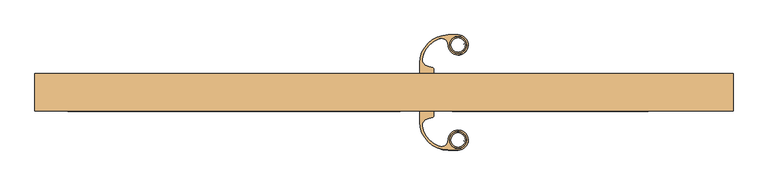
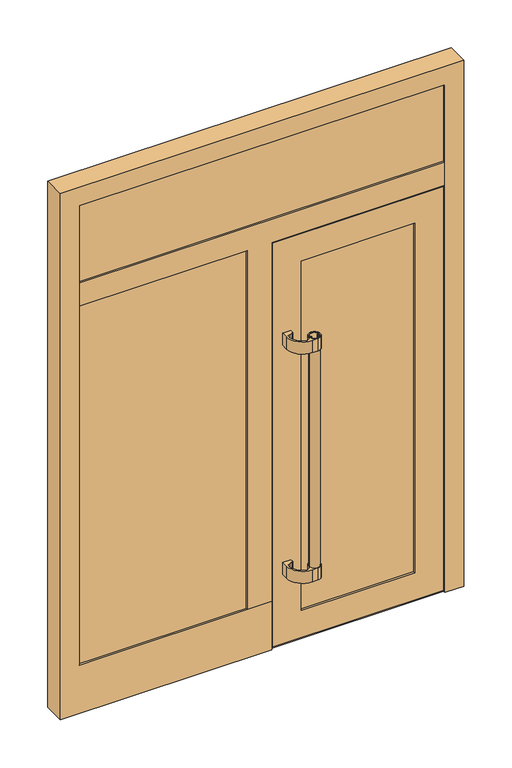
"""IFC4 building model written with IfcOpenShell, lengths in millimetres: door geometry, jednokrilna vrata s fixnim poljem i nadsvijetlom : jednokrilna vrata s fixnim poljem i nadsvijetlom."""

from ifc_helpers import new_model, si_unit, point, frame, frame_2d, origin, place, context, project, spatial, polyline, circle_curve, trimmed, segment, composite_curve, outline, extrude, faceted_brep, source, transform, mapped, element, save
from ifc_brep_helpers import plane_surface, cylinder_surface, advanced_brep


def door_963cac1d(model_context):
    return source(origin(), model_context, "Body", "SolidModel", [
        extrude(outline(composite_curve([segment(trimmed(circle_curve(frame_2d((167.5865345, 90.4490127)), 19.0), [point((148.5865345, 90.4490127))], [point((186.5865345, 90.4490127))], False, "CARTESIAN"), True, "CONTINUOUS"), segment(trimmed(circle_curve(frame_2d((167.5865345, 90.4490127)), 19.0), [point((186.5865345, 90.4490127))], [point((148.5865345, 90.4490127))], False, "CARTESIAN"), True, "CONTINUOUS")], self_intersect=False), holes=[composite_curve([segment(trimmed(circle_curve(frame_2d((153.1265345, 90.4490127)), 1.55), [point((154.22255, 91.5450282))], [point((154.22255, 89.3529971))], True, "CARTESIAN"), True, "CONTINUOUS"), segment(polyline([(154.22255, 89.3529971), (155.3691513, 89.3529971), (155.3691513, 88.3818479)]), True, "CONTINUOUS"), segment(trimmed(circle_curve(frame_2d((153.1265345, 90.4490127)), 3.05), [point((155.3691513, 88.3818479))], [point((153.1265345, 87.3990127))], False, "CARTESIAN"), True, "CONTINUOUS"), segment(polyline([(153.1265345, 87.3990127), (151.8799276, 87.3990127)]), True, "CONTINUOUS"), segment(trimmed(circle_curve(frame_2d((167.5865345, 90.4490127)), 16.0), [point((151.8799276, 87.3990127))], [point((183.2931414, 87.3990127))], True, "CARTESIAN"), True, "CONTINUOUS"), segment(polyline([(183.2931414, 87.3990127), (182.0865345, 87.3990127)]), True, "CONTINUOUS"), segment(trimmed(circle_curve(frame_2d((182.0865345, 90.4490127)), 3.05), [point((182.0865345, 87.3990127))], [point((179.8439178, 88.3818479))], False, "CARTESIAN"), True, "CONTINUOUS"), segment(polyline([(179.8439178, 88.3818479), (179.8439178, 89.3529971), (180.990519, 89.3529971)]), True, "CONTINUOUS"), segment(trimmed(circle_curve(frame_2d((182.0865345, 90.4490127)), 1.55), [point((180.990519, 89.3529971))], [point((180.990519, 91.5450282))], True, "CARTESIAN"), True, "CONTINUOUS"), segment(polyline([(180.990519, 91.5450282), (179.8439178, 91.5450282), (179.8439178, 92.5161774)]), True, "CONTINUOUS"), segment(trimmed(circle_curve(frame_2d((182.0865345, 90.4490127)), 3.05), [point((179.8439178, 92.5161774))], [point((182.0865345, 93.4990127))], False, "CARTESIAN"), True, "CONTINUOUS"), segment(polyline([(182.0865345, 93.4990127), (183.2931414, 93.4990127)]), True, "CONTINUOUS"), segment(trimmed(circle_curve(frame_2d((167.5865345, 90.4490127)), 16.0), [point((183.2931414, 93.4990127))], [point((151.8799276, 93.4990127))], True, "CARTESIAN"), True, "CONTINUOUS"), segment(polyline([(151.8799276, 93.4990127), (153.1265345, 93.4990127)]), True, "CONTINUOUS"), segment(trimmed(circle_curve(frame_2d((153.1265345, 90.4490127)), 3.05), [point((153.1265345, 93.4990127))], [point((155.3691513, 92.5161774))], False, "CARTESIAN"), True, "CONTINUOUS"), segment(polyline([(155.3691513, 92.5161774), (155.3691513, 91.5450282), (154.22255, 91.5450282)]), True, "CONTINUOUS")], self_intersect=False)]), frame((0.0, 0.0, 306.9880453), z_axis=(0.0, 0.0, 1.0), x_axis=(1.0, 0.0, 0.0)), (0.0, 0.0, 1.0), 1000.0),
        extrude(outline(composite_curve([segment(polyline([(86.0396574, 25.0012504), (81.0396574, 25.0012504), (81.0396574, 49.1990127)]), True, "CONTINUOUS"), segment(trimmed(circle_curve(frame_2d((145.0368984, 49.1990127)), 63.997241), [point((81.0396574, 49.1990127))], [point((145.0368984, 113.1962536))], False, "CARTESIAN"), True, "CONTINUOUS"), segment(polyline([(145.0368984, 113.1962536), (167.9408353, 113.1962536)]), True, "CONTINUOUS"), segment(trimmed(circle_curve(frame_2d((167.5223901, 90.256705)), 22.9433648), [point((167.9408353, 113.1962536))], [point((180.958649, 108.8541493))], False, "CARTESIAN"), True, "CONTINUOUS"), segment(trimmed(circle_curve(frame_2d((167.6642718, 90.4530867)), 22.7010919), [point((180.958649, 108.8541493))], [point((182.8092558, 73.5424679))], False, "CARTESIAN"), True, "CONTINUOUS"), segment(trimmed(circle_curve(frame_2d((167.581476, 90.5455349)), 22.8251959), [point((182.8092558, 73.5424679))], [point((154.21442, 72.043876))], False, "CARTESIAN"), True, "CONTINUOUS"), segment(trimmed(circle_curve(frame_2d((167.4681672, 90.3887015)), 22.631713), [point((154.21442, 72.043876))], [point((144.8365345, 90.4490127))], False, "CARTESIAN"), True, "CONTINUOUS"), segment(trimmed(circle_curve(frame_2d((129.8365429, 90.4889862)), 15.0000449), [point((144.8365345, 90.4490127))], [point((124.6686807, 104.5706959))], True, "CARTESIAN"), True, "CONTINUOUS"), segment(trimmed(circle_curve(frame_2d((144.9673201, 49.2597109)), 58.9180773), [point((124.6686807, 104.5706959))], [point((86.9718115, 59.6453165))], True, "CARTESIAN"), True, "CONTINUOUS"), segment(trimmed(circle_curve(frame_2d((101.6866787, 56.7149289)), 15.0038159), [point((86.9718115, 59.6453165))], [point((97.8034054, 42.2223556))], True, "CARTESIAN"), True, "CONTINUOUS"), segment(polyline([(97.8034054, 42.2223556), (109.3337526, 39.1328084)]), True, "CONTINUOUS"), segment(trimmed(circle_curve(frame_2d((108.0396574, 34.3031793)), 5.0), [point((109.3337526, 39.1328084))], [point((113.0396574, 34.3031793))], False, "CARTESIAN"), True, "CONTINUOUS"), segment(polyline([(113.0396574, 34.3031793), (113.0396574, 25.0012504), (86.0396574, 25.0012504)]), True, "CONTINUOUS")], self_intersect=False), holes=[composite_curve([segment(trimmed(circle_curve(frame_2d((167.5865345, 90.4490127)), 19.25), [point((148.3365345, 90.4490127))], [point((186.8365345, 90.4490127))], True, "CARTESIAN"), True, "CONTINUOUS"), segment(trimmed(circle_curve(frame_2d((167.5865345, 90.4490127)), 19.25), [point((186.8365345, 90.4490127))], [point((148.3365345, 90.4490127))], True, "CARTESIAN"), True, "CONTINUOUS")], self_intersect=False)]), frame((0.0, 0.0, 1256.9880453), z_axis=(0.0, 0.0, 1.0), x_axis=(1.0, 0.0, 0.0)), (0.0, 0.0, 1.0), 50.0),
        extrude(outline(composite_curve([segment(polyline([(86.0396574, 25.0012504), (81.0396574, 25.0012504), (81.0396574, 49.1990127)]), True, "CONTINUOUS"), segment(trimmed(circle_curve(frame_2d((145.0368984, 49.1990127)), 63.997241), [point((81.0396574, 49.1990127))], [point((145.0368984, 113.1962536))], False, "CARTESIAN"), True, "CONTINUOUS"), segment(polyline([(145.0368984, 113.1962536), (167.9408353, 113.1962536)]), True, "CONTINUOUS"), segment(trimmed(circle_curve(frame_2d((167.5223901, 90.256705)), 22.9433648), [point((167.9408353, 113.1962536))], [point((180.958649, 108.8541493))], False, "CARTESIAN"), True, "CONTINUOUS"), segment(trimmed(circle_curve(frame_2d((167.6642718, 90.4530867)), 22.7010919), [point((180.958649, 108.8541493))], [point((182.8092558, 73.5424679))], False, "CARTESIAN"), True, "CONTINUOUS"), segment(trimmed(circle_curve(frame_2d((167.581476, 90.5455349)), 22.8251959), [point((182.8092558, 73.5424679))], [point((154.21442, 72.043876))], False, "CARTESIAN"), True, "CONTINUOUS"), segment(trimmed(circle_curve(frame_2d((167.4681672, 90.3887015)), 22.631713), [point((154.21442, 72.043876))], [point((144.8365345, 90.4490127))], False, "CARTESIAN"), True, "CONTINUOUS"), segment(trimmed(circle_curve(frame_2d((129.8365429, 90.4889862)), 15.0000449), [point((144.8365345, 90.4490127))], [point((124.6686807, 104.5706959))], True, "CARTESIAN"), True, "CONTINUOUS"), segment(trimmed(circle_curve(frame_2d((144.9673201, 49.2597109)), 58.9180773), [point((124.6686807, 104.5706959))], [point((86.9718115, 59.6453165))], True, "CARTESIAN"), True, "CONTINUOUS"), segment(trimmed(circle_curve(frame_2d((101.6866787, 56.7149289)), 15.0038159), [point((86.9718115, 59.6453165))], [point((97.8034054, 42.2223556))], True, "CARTESIAN"), True, "CONTINUOUS"), segment(polyline([(97.8034054, 42.2223556), (109.3337526, 39.1328084)]), True, "CONTINUOUS"), segment(trimmed(circle_curve(frame_2d((108.0396574, 34.3031793)), 5.0), [point((109.3337526, 39.1328084))], [point((113.0396574, 34.3031793))], False, "CARTESIAN"), True, "CONTINUOUS"), segment(polyline([(113.0396574, 34.3031793), (113.0396574, 25.0012504), (86.0396574, 25.0012504)]), True, "CONTINUOUS")], self_intersect=False), holes=[composite_curve([segment(trimmed(circle_curve(frame_2d((167.5865345, 90.4490127)), 19.25), [point((148.3365345, 90.4490127))], [point((186.8365345, 90.4490127))], True, "CARTESIAN"), True, "CONTINUOUS"), segment(trimmed(circle_curve(frame_2d((167.5865345, 90.4490127)), 19.25), [point((186.8365345, 90.4490127))], [point((148.3365345, 90.4490127))], True, "CARTESIAN"), True, "CONTINUOUS")], self_intersect=False)]), frame((0.0, 0.0, 306.9880453), z_axis=(0.0, 0.0, 1.0), x_axis=(1.0, 0.0, 0.0)), (0.0, 0.0, 1.0), 50.0),
        extrude(outline(composite_curve([segment(trimmed(circle_curve(frame_2d((167.5865345, -125.4490749)), 19.0), [point((148.5865345, -125.4490749))], [point((186.5865345, -125.4490749))], False, "CARTESIAN"), True, "CONTINUOUS"), segment(trimmed(circle_curve(frame_2d((167.5865345, -125.4490749)), 19.0), [point((186.5865345, -125.4490749))], [point((148.5865345, -125.4490749))], False, "CARTESIAN"), True, "CONTINUOUS")], self_intersect=False), holes=[composite_curve([segment(polyline([(154.22255, -126.5450904), (155.3691513, -126.5450904), (155.3691513, -127.5162397)]), True, "CONTINUOUS"), segment(trimmed(circle_curve(frame_2d((153.1265345, -125.4490749)), 3.05), [point((155.3691513, -127.5162397))], [point((153.1265345, -128.4990749))], False, "CARTESIAN"), True, "CONTINUOUS"), segment(polyline([(153.1265345, -128.4990749), (151.8799276, -128.4990749)]), True, "CONTINUOUS"), segment(trimmed(circle_curve(frame_2d((167.5865345, -125.4490749)), 16.0), [point((151.8799276, -128.4990749))], [point((183.2931414, -128.4990749))], True, "CARTESIAN"), True, "CONTINUOUS"), segment(polyline([(183.2931414, -128.4990749), (182.0865345, -128.4990749)]), True, "CONTINUOUS"), segment(trimmed(circle_curve(frame_2d((182.0865345, -125.4490749)), 3.05), [point((182.0865345, -128.4990749))], [point((179.8439178, -127.5162397))], False, "CARTESIAN"), True, "CONTINUOUS"), segment(polyline([(179.8439178, -127.5162397), (179.8439178, -126.5450904), (180.990519, -126.5450904)]), True, "CONTINUOUS"), segment(trimmed(circle_curve(frame_2d((182.0865345, -125.4490749)), 1.55), [point((180.990519, -126.5450904))], [point((180.990519, -124.3530594))], True, "CARTESIAN"), True, "CONTINUOUS"), segment(polyline([(180.990519, -124.3530594), (179.8439178, -124.3530594), (179.8439178, -123.3819102)]), True, "CONTINUOUS"), segment(trimmed(circle_curve(frame_2d((182.0865345, -125.4490749)), 3.05), [point((179.8439178, -123.3819102))], [point((182.0865345, -122.3990749))], False, "CARTESIAN"), True, "CONTINUOUS"), segment(polyline([(182.0865345, -122.3990749), (183.2931414, -122.3990749)]), True, "CONTINUOUS"), segment(trimmed(circle_curve(frame_2d((167.5865345, -125.4490749)), 16.0), [point((183.2931414, -122.3990749))], [point((151.8799276, -122.3990749))], True, "CARTESIAN"), True, "CONTINUOUS"), segment(polyline([(151.8799276, -122.3990749), (153.1265345, -122.3990749)]), True, "CONTINUOUS"), segment(trimmed(circle_curve(frame_2d((153.1265345, -125.4490749)), 3.05), [point((153.1265345, -122.3990749))], [point((155.3691513, -123.3819102))], False, "CARTESIAN"), True, "CONTINUOUS"), segment(polyline([(155.3691513, -123.3819102), (155.3691513, -124.3530594), (154.22255, -124.3530594)]), True, "CONTINUOUS"), segment(trimmed(circle_curve(frame_2d((153.1265345, -125.4490749)), 1.55), [point((154.22255, -124.3530594))], [point((154.22255, -126.5450904))], True, "CARTESIAN"), True, "CONTINUOUS")], self_intersect=False)]), frame((0.0, 0.0, 306.9880453), z_axis=(0.0, 0.0, 1.0), x_axis=(1.0, 0.0, 0.0)), (0.0, 0.0, 1.0), 1000.0),
        extrude(outline(composite_curve([segment(polyline([(86.0396574, -60.0013127), (113.0396574, -60.0013127), (113.0396574, -69.3032415)]), True, "CONTINUOUS"), segment(trimmed(circle_curve(frame_2d((108.0396574, -69.3032415)), 5.0), [point((113.0396574, -69.3032415))], [point((109.3337526, -74.1328707))], False, "CARTESIAN"), True, "CONTINUOUS"), segment(polyline([(109.3337526, -74.1328707), (97.8034054, -77.2224179)]), True, "CONTINUOUS"), segment(trimmed(circle_curve(frame_2d((101.6866787, -91.7149911)), 15.0038159), [point((97.8034054, -77.2224179))], [point((86.9718115, -94.6453788))], True, "CARTESIAN"), True, "CONTINUOUS"), segment(trimmed(circle_curve(frame_2d((144.9673201, -84.2597731)), 58.9180773), [point((86.9718115, -94.6453788))], [point((124.6686807, -139.5707582))], True, "CARTESIAN"), True, "CONTINUOUS"), segment(trimmed(circle_curve(frame_2d((129.8365429, -125.4890485)), 15.0000449), [point((124.6686807, -139.5707582))], [point((144.8365345, -125.4490749))], True, "CARTESIAN"), True, "CONTINUOUS"), segment(trimmed(circle_curve(frame_2d((167.4681672, -125.3887637)), 22.631713), [point((144.8365345, -125.4490749))], [point((154.21442, -107.0439383))], False, "CARTESIAN"), True, "CONTINUOUS"), segment(trimmed(circle_curve(frame_2d((167.581476, -125.5455972)), 22.8251959), [point((154.21442, -107.0439383))], [point((182.8092558, -108.5425301))], False, "CARTESIAN"), True, "CONTINUOUS"), segment(trimmed(circle_curve(frame_2d((167.6642718, -125.4531489)), 22.7010919), [point((182.8092558, -108.5425301))], [point((180.958649, -143.8542115))], False, "CARTESIAN"), True, "CONTINUOUS"), segment(trimmed(circle_curve(frame_2d((167.5223901, -125.2567672)), 22.9433648), [point((180.958649, -143.8542115))], [point((167.9408353, -148.1963159))], False, "CARTESIAN"), True, "CONTINUOUS"), segment(polyline([(167.9408353, -148.1963159), (145.0368984, -148.1963159)]), True, "CONTINUOUS"), segment(trimmed(circle_curve(frame_2d((145.0368984, -84.1990749)), 63.997241), [point((145.0368984, -148.1963159))], [point((81.0396574, -84.1990749))], False, "CARTESIAN"), True, "CONTINUOUS"), segment(polyline([(81.0396574, -84.1990749), (81.0396574, -60.0013127), (86.0396574, -60.0013127)]), True, "CONTINUOUS")], self_intersect=False), holes=[composite_curve([segment(trimmed(circle_curve(frame_2d((167.5865345, -125.4490749)), 19.25), [point((148.3365345, -125.4490749))], [point((186.8365345, -125.4490749))], True, "CARTESIAN"), True, "CONTINUOUS"), segment(trimmed(circle_curve(frame_2d((167.5865345, -125.4490749)), 19.25), [point((186.8365345, -125.4490749))], [point((148.3365345, -125.4490749))], True, "CARTESIAN"), True, "CONTINUOUS")], self_intersect=False)]), frame((0.0, 0.0, 1256.9880453), z_axis=(0.0, 0.0, 1.0), x_axis=(1.0, 0.0, 0.0)), (0.0, 0.0, 1.0), 50.0),
        extrude(outline(composite_curve([segment(polyline([(86.0396574, -60.0013127), (113.0396574, -60.0013127), (113.0396574, -69.3032415)]), True, "CONTINUOUS"), segment(trimmed(circle_curve(frame_2d((108.0396574, -69.3032415)), 5.0), [point((113.0396574, -69.3032415))], [point((109.3337526, -74.1328707))], False, "CARTESIAN"), True, "CONTINUOUS"), segment(polyline([(109.3337526, -74.1328707), (97.8034054, -77.2224179)]), True, "CONTINUOUS"), segment(trimmed(circle_curve(frame_2d((101.6866787, -91.7149911)), 15.0038159), [point((97.8034054, -77.2224179))], [point((86.9718115, -94.6453788))], True, "CARTESIAN"), True, "CONTINUOUS"), segment(trimmed(circle_curve(frame_2d((144.9673201, -84.2597731)), 58.9180773), [point((86.9718115, -94.6453788))], [point((124.6686807, -139.5707582))], True, "CARTESIAN"), True, "CONTINUOUS"), segment(trimmed(circle_curve(frame_2d((129.8365429, -125.4890485)), 15.0000449), [point((124.6686807, -139.5707582))], [point((144.8365345, -125.4490749))], True, "CARTESIAN"), True, "CONTINUOUS"), segment(trimmed(circle_curve(frame_2d((167.4681672, -125.3887637)), 22.631713), [point((144.8365345, -125.4490749))], [point((154.21442, -107.0439383))], False, "CARTESIAN"), True, "CONTINUOUS"), segment(trimmed(circle_curve(frame_2d((167.581476, -125.5455972)), 22.8251959), [point((154.21442, -107.0439383))], [point((182.8092558, -108.5425301))], False, "CARTESIAN"), True, "CONTINUOUS"), segment(trimmed(circle_curve(frame_2d((167.6642718, -125.4531489)), 22.7010919), [point((182.8092558, -108.5425301))], [point((180.958649, -143.8542115))], False, "CARTESIAN"), True, "CONTINUOUS"), segment(trimmed(circle_curve(frame_2d((167.5223901, -125.2567672)), 22.9433648), [point((180.958649, -143.8542115))], [point((167.9408353, -148.1963159))], False, "CARTESIAN"), True, "CONTINUOUS"), segment(polyline([(167.9408353, -148.1963159), (145.0368984, -148.1963159)]), True, "CONTINUOUS"), segment(trimmed(circle_curve(frame_2d((145.0368984, -84.1990749)), 63.997241), [point((145.0368984, -148.1963159))], [point((81.0396574, -84.1990749))], False, "CARTESIAN"), True, "CONTINUOUS"), segment(polyline([(81.0396574, -84.1990749), (81.0396574, -60.0013127), (86.0396574, -60.0013127)]), True, "CONTINUOUS")], self_intersect=False), holes=[composite_curve([segment(trimmed(circle_curve(frame_2d((167.5865345, -125.4490749)), 19.25), [point((148.3365345, -125.4490749))], [point((186.8365345, -125.4490749))], True, "CARTESIAN"), True, "CONTINUOUS"), segment(trimmed(circle_curve(frame_2d((167.5865345, -125.4490749)), 19.25), [point((186.8365345, -125.4490749))], [point((148.3365345, -125.4490749))], True, "CARTESIAN"), True, "CONTINUOUS")], self_intersect=False)]), frame((0.0, 0.0, 306.9880453), z_axis=(0.0, 0.0, 1.0), x_axis=(1.0, 0.0, 0.0)), (0.0, 0.0, 1.0), 50.0),
        extrude(outline(polyline([(139.2396574, -50.5054883), (139.2396574, -6.5054883), (613.5103426, -6.5054883), (613.5103426, -50.5054883), (139.2396574, -50.5054883)])), frame((0.0, 0.0, 85.5777027), z_axis=(0.0, 0.0, 1.0), x_axis=(1.0, 0.0, 0.0)), (0.0, 0.0, 1.0), 1542.0206852),
        faceted_brep([(598.5077577, -60.0013127, 1581.095803), (598.5077577, -50.5054883, 1581.095803), (598.5077577, -50.5054883, 132.0802875), (598.5077577, -60.0013127, 132.0802875), (710.5034819, -60.0013127, 20.0845634), (710.5034819, -60.0013127, 1693.0915271), (42.2465181, -60.0013127, 1693.0915271), (42.2465181, -60.0013127, 20.0845634), (154.2422423, -60.0013127, 132.0802875), (154.2422423, -60.0013127, 1581.095803), (154.2422423, -50.5054883, 132.0802875), (613.5103426, -50.5054883, 1596.0983879), (613.5103426, -50.5054883, 117.0777027), (139.2396574, -50.5054883, 117.0777027), (139.2396574, -50.5054883, 1596.0983879), (154.2422423, -50.5054883, 1581.095803), (613.5103426, -6.5054883, 1596.0983879), (613.5103426, -6.5054883, 117.0777027), (139.2396574, -6.5054883, 117.0777027), (139.2396574, -6.5054883, 1596.0983879), (598.5079287, -6.5054883, 1581.095974), (598.5079287, -6.5054883, 132.0801166), (154.2420713, -6.5054883, 132.0801166), (154.2420713, -6.5054883, 1581.095974), (598.5079287, 25.0012504, 1581.095974), (598.5079287, 25.0012504, 132.0801166), (154.2420713, 25.0012504, 132.0801166), (681.5095093, 25.0012504, 1664.0975546), (681.5095093, 25.0012504, 49.0785359), (71.2404907, 25.0012504, 49.0785359), (71.2404907, 25.0012504, 1664.0975546), (154.2420713, 25.0012504, 1581.095974), (681.5095093, 16.5011664, 1664.0975546), (681.5095093, 16.5011664, 49.0785359), (71.2404907, 16.5011664, 49.0785359), (692.906518, 16.5011664, 1675.4945633), (692.906518, 16.5011664, 37.6815273), (59.843482, 16.5011664, 37.6815273), (59.843482, 16.5011664, 1675.4945633), (71.2404907, 16.5011664, 1664.0975546), (692.906518, -51.4905497, 1675.4945633), (692.906518, -51.4905497, 37.6815273), (59.843482, -51.4905497, 37.6815273), (710.5034819, -51.4905497, 1693.0915271), (710.5034819, -51.4905497, 20.0845634), (42.2465181, -51.4905497, 20.0845634), (42.2465181, -51.4905497, 1693.0915271), (59.843482, -51.4905497, 1675.4945633)], [[[0, 1, 2, 3]], [[4, 5, 6, 7], [0, 3, 8, 9]], [[2, 10, 8, 3]], [[11, 12, 13, 14], [2, 1, 15, 10]], [[16, 17, 12, 11]], [[17, 18, 13, 12]], [[17, 16, 19, 18], [20, 21, 22, 23]], [[24, 25, 21, 20]], [[25, 26, 22, 21]], [[27, 28, 29, 30], [25, 24, 31, 26]], [[32, 33, 28, 27]], [[33, 34, 29, 28]], [[35, 36, 37, 38], [33, 32, 39, 34]], [[40, 41, 36, 35]], [[41, 42, 37, 36]], [[43, 44, 45, 46], [41, 40, 47, 42]], [[5, 4, 44, 43]], [[4, 7, 45, 44]], [[10, 15, 9, 8]], [[18, 19, 14, 13]], [[26, 31, 23, 22]], [[34, 39, 30, 29]], [[42, 47, 38, 37]], [[7, 6, 46, 45]], [[15, 1, 0, 9]], [[19, 16, 11, 14]], [[31, 24, 20, 23]], [[39, 32, 27, 30]], [[47, 40, 35, 38]], [[6, 5, 43, 46]]]),
        extrude(outline(polyline([(-39.7540107, -11.50254), (-39.7540107, -51.50254), (-731.9999063, -51.50254), (-731.9999063, -11.50254), (-39.7540107, -11.50254)])), frame((0.0, 0.0, 191.9998283), z_axis=(0.0, 0.0, 1.0), x_axis=(1.0, 0.0, 0.0)), (0.0, 0.0, 1.0), 1524.0001643),
        advanced_brep(
        [(-790.0, 25.0, 10.0), (790.0, 25.0, 10.0), (790.0, -60.0023127, 10.0), (715.5001823, -60.0023127, 10.0), (715.5001823, -51.5068016, 10.0), (37.2458143, -51.4957208, 10.0), (37.25, -59.999963, 10.0), (-790.0, -60.0013127, 10.0), (-790.0, -60.0013127, 2190.0), (-790.0, 25.0, 2190.0), (37.25, -60.0013127, 209.9996501), (-715.5001827, -60.0013127, 209.9996501), (-715.5001827, -60.0013127, 2115.5001827), (715.5001827, -60.0013127, 2115.5001827), (790.0, -60.0013127, 2190.0), (37.25, -51.4957208, 1697.9981964), (37.25, -59.4997832, 1697.9981964), (37.25, -59.4969669, 209.9996501), (715.5001823, -51.5068016, 1697.9981964), (52.65, -51.5068016, 1682.5940107), (700.0959967, -51.5068016, 1682.5940107), (700.0959967, -51.5068016, 25.5020089), (52.65, -51.5068016, 25.5020089), (715.5001827, -51.50254, 2115.5001827), (715.5001827, -51.50254, 1792.9978438), (715.5001827, -59.4969669, 1792.9978438), (715.5001827, -59.4969669, 1697.9981964), (790.0, 25.0, 2190.0), (686.5959968, 25.0, 1669.0940104), (66.1500003, 25.0, 1669.0940104), (66.1500003, 25.0, 25.5020089), (686.5959968, 25.0, 25.5020089), (-718.4799018, 25.0, 2118.4799018), (-718.4799018, 25.0, 1790.0), (718.4799018, 25.0, 1789.9980259), (718.4799018, 25.0, 2118.4799018), (-718.4799018, 25.0, 206.9998328), (-54.7540152, 25.0, 206.9998328), (-54.7540152, 25.0, 1701.000809), (-718.4799018, 25.0, 1701.000809), (-718.4799018, -11.50254, 1701.000809), (-718.4799018, -11.50254, 206.9998328), (-718.4799018, -11.50254, 2118.4799018), (-718.4799018, -11.50254, 1790.0), (-54.7540152, -11.50254, 206.9998328), (-54.7540152, -11.5025499, 1701.000809), (686.5959968, 16.5028834, 25.5020089), (686.5959968, 16.5028834, 1669.0940104), (66.1500003, 16.5038834, 25.5020089), (52.65, 16.5028834, 25.5020089), (52.65, -2.5534255, 25.5020089), (700.0959967, -2.5534255, 25.5020089), (700.0959967, 16.5028834, 25.5020089), (66.1500003, 16.5038834, 1669.0940104), (-715.5001827, -51.50254, 209.9996501), (-715.5001827, -51.50254, 1698.0001701), (-715.5001827, -59.499963, 1698.0001701), (-715.5001827, -59.499963, 1792.9998164), (-715.5001827, -51.50254, 1792.9998164), (-715.5001827, -51.50254, 2115.5001827), (-57.7538331, -59.4969669, 209.9996501), (-57.7538331, -51.50254, 209.9996501), (731.9999063, -51.50254, 2131.9999063), (731.9999063, -51.50254, 1775.0040107), (-731.9999063, -51.50254, 1774.9999955), (-731.9999063, -51.50254, 2131.9999063), (-731.9999063, -51.50254, 1715.9999926), (-39.7540107, -51.50254, 1715.9999926), (-39.7540107, -51.50254, 191.9998283), (-731.9999063, -51.50254, 191.9998283), (-57.7538331, -51.50254, 1698.0001701), (-57.7538331, -59.499963, 1698.0001701), (-731.9999063, -11.50254, 1774.9999955), (-731.9999063, -11.50254, 2131.9999063), (-731.9999063, -11.50254, 191.9998283), (-731.9999063, -11.50254, 1715.9999926), (-39.7540107, -11.50254, 191.9998283), (-39.7540107, -11.5025501, 1715.9999926), (731.9999063, -11.50254, 1775.0040107), (731.9999063, -11.50254, 2131.9999063), (718.4799018, -11.50254, 2118.4799018), (718.4799018, -11.50254, 1789.9980259), (52.65, -34.7185189, 25.5020089), (52.65, -23.2837038, 29.7334181), (52.65, -12.6811663, 29.5820648), (52.65, 16.5038834, 1682.5940107), (700.0959967, -34.7185189, 25.5020089), (700.0959967, 16.5028834, 1682.5940107), (700.0959967, -12.6811663, 29.5820648), (700.0959967, -23.2837038, 29.7334181)],
        [
            (0, 1),
            (1, 2),
            (2, 3),
            (3, 4),
            (4, 5),
            (5, 6),
            (6, 7),
            (7, 0),
            (7, 8),
            (8, 9),
            (9, 0),
            (6, 10),
            (10, 11),
            (11, 12),
            (12, 13),
            (13, 3),
            (2, 14),
            (14, 8),
            (5, 15),
            (15, 16),
            (16, 17),
            (17, 10),
            (4, 18),
            (18, 15),
            (19, 20),
            (20, 21),
            (21, 22),
            (22, 19),
            (23, 24),
            (24, 25),
            (25, 26),
            (26, 18),
            (13, 23),
            (1, 27),
            (27, 14),
            (9, 27),
            (28, 29),
            (29, 30),
            (30, 31),
            (31, 28),
            (32, 33),
            (33, 34),
            (34, 35),
            (35, 32),
            (36, 37),
            (37, 38),
            (38, 39),
            (39, 36),
            (39, 40),
            (40, 41),
            (41, 36),
            (42, 43),
            (43, 33),
            (32, 42),
            (37, 44),
            (44, 45),
            (45, 38),
            (41, 44),
            (31, 46),
            (46, 47),
            (47, 28),
            (30, 48),
            (48, 49),
            (49, 50),
            (50, 51),
            (51, 52),
            (52, 46),
            (53, 48),
            (29, 53),
            (11, 54),
            (54, 55),
            (55, 56),
            (56, 57),
            (57, 58),
            (58, 59),
            (59, 12),
            (17, 60),
            (60, 61),
            (61, 54),
            (62, 63),
            (63, 64),
            (64, 65),
            (65, 62),
            (58, 24),
            (23, 59),
            (66, 67),
            (67, 68),
            (68, 69),
            (69, 66),
            (61, 70),
            (70, 55),
            (60, 71),
            (71, 70),
            (64, 72),
            (72, 73),
            (73, 65),
            (74, 75),
            (75, 66),
            (69, 74),
            (68, 76),
            (76, 74),
            (67, 77),
            (77, 76),
            (77, 75),
            (40, 45),
            (72, 78),
            (78, 79),
            (79, 73),
            (80, 81),
            (81, 43),
            (42, 80),
            (56, 71),
            (16, 26),
            (25, 57),
            (22, 82),
            (82, 83),
            (83, 84, circle_curve(frame((52.65, -18.1783048, 15.936763), z_axis=(-1.0, 0.0, 0.0), x_axis=(0.0, 0.3736760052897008, 0.9275592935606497)), 14.7109752)),
            (84, 50),
            (49, 85),
            (85, 19),
            (21, 86),
            (86, 82),
            (87, 52),
            (51, 88),
            (88, 89, circle_curve(frame((700.0959967, -18.1783048, 15.936763), z_axis=(1.0, 0.0, 0.0), x_axis=(0.0, 0.3736760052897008, 0.9275592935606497)), 14.7109752)),
            (89, 86),
            (20, 87),
            (87, 85),
            (53, 47),
            (89, 83),
            (88, 84),
            (79, 62),
            (35, 80),
            (78, 63),
            (34, 81),
        ],
        [
            plane_surface(frame((-790.0, 25.0, 10.0), z_axis=(0.0, 0.0, -1.0), x_axis=(0.0, 1.0, 0.0))),
            plane_surface(frame((-790.0, 25.0, 10.0), z_axis=(-1.0, 0.0, 0.0), x_axis=(0.0, 0.0, 1.0))),
            plane_surface(frame((-790.0, -60.0013127, 10.0), z_axis=(0.0, -1.0, 0.0), x_axis=(0.0, 0.0, 1.0))),
            plane_surface(frame((37.25, 25.0, 10.0), z_axis=(1.0, 0.0, 0.0), x_axis=(0.0, 1.0, 0.0))),
            plane_surface(frame((705.6793966, -51.5068016, 1775.0040107), z_axis=(0.0, -1.0, 0.0), x_axis=(0.0, 0.0, -1.0))),
            plane_surface(frame((715.5001827, -60.0013127, 2115.5001827), z_axis=(-1.0, 0.0, 0.0), x_axis=(0.0, 0.0, -1.0))),
            plane_surface(frame((790.0, 25.0, 2190.0), z_axis=(1.0, 0.0, 0.0), x_axis=(0.0, 0.0, -1.0))),
            plane_surface(frame((-718.4799018, 25.0, 10.0), z_axis=(0.0, 1.0, 0.0), x_axis=(0.0, 0.0, 1.0))),
            plane_surface(frame((-718.4799018, -11.50254, 10.0), z_axis=(1.0, 0.0, 0.0), x_axis=(0.0, 0.0, 1.0))),
            plane_surface(frame((-54.7540152, -11.50254, 1775.0040107), z_axis=(-1.0, 0.0, 0.0), x_axis=(0.0, 0.0, -1.0))),
            plane_surface(frame((-790.0, 25.0, 206.9998328), z_axis=(0.0, 0.0, 1.0), x_axis=(1.0, 0.0, 0.0))),
            plane_surface(frame((686.5959968, 16.5028834, 1775.0040107), z_axis=(-1.0, 0.0, 0.0), x_axis=(0.0, 0.0, -1.0))),
            plane_surface(frame((37.25, 25.0, 25.5020089), z_axis=(0.0, 0.0, 1.0), x_axis=(1.0, 0.0, 0.0))),
            plane_surface(frame((66.1500003, 22.7499731, 1775.0040107), z_axis=(1.0, 0.0, 0.0), x_axis=(0.0, 0.0, -1.0))),
            plane_surface(frame((-715.5001827, -60.0013127, 10.0), z_axis=(1.0, 0.0, 0.0), x_axis=(0.0, 0.0, 1.0))),
            plane_surface(frame((-790.0, -51.50254, 209.9996501), z_axis=(0.0, 0.0, 1.0), x_axis=(1.0, 0.0, 0.0))),
            plane_surface(frame((-715.5001827, -51.50254, 10.0), z_axis=(0.0, 1.0, 0.0), x_axis=(0.0, 0.0, 1.0))),
            plane_surface(frame((-57.7538331, -59.4969669, 1775.0040107), z_axis=(-1.0, 0.0, 0.0), x_axis=(0.0, 0.0, -1.0))),
            plane_surface(frame((-731.9999063, -51.50254, 10.0), z_axis=(1.0, 0.0, 0.0), x_axis=(0.0, 0.0, 1.0))),
            plane_surface(frame((-790.0, -11.50254, 191.9998283), z_axis=(0.0, 0.0, 1.0), x_axis=(1.0, 0.0, 0.0))),
            plane_surface(frame((-39.7540107, -51.49254, 1775.0040107), z_axis=(-1.0, 0.0, 0.0), x_axis=(0.0, 0.0, -1.0))),
            plane_surface(frame((-731.9999063, -11.50254, 10.0), z_axis=(0.0, -1.0, 0.0), x_axis=(0.0, 0.0, 1.0))),
            plane_surface(frame((-790.0, -59.499963, 1792.9998164), z_axis=(0.0, -1.0, 0.0), x_axis=(1.0, 0.0, 0.0))),
            plane_surface(frame((52.65, 16.5038834, 1775.0040107), z_axis=(1.0, 0.0, 0.0), x_axis=(0.0, 0.0, -1.0))),
            plane_surface(frame((37.25, -34.7185189, 25.5020089), z_axis=(0.0, 0.0, 1.0), x_axis=(1.0, 0.0, 0.0))),
            plane_surface(frame((700.0959967, -51.5068016, 1775.0040107), z_axis=(-1.0, 0.0, 0.0), x_axis=(0.0, 0.0, -1.0))),
            plane_surface(frame((700.0959967, 16.5028834, 1775.0040107), z_axis=(0.0, -1.0, 0.0), x_axis=(0.0, 0.0, -1.0))),
            plane_surface(frame((37.25, -23.2837038, 29.7334181), z_axis=(0.0, -0.347046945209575, 0.9378477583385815), x_axis=(1.0, 0.0, 0.0))),
            cylinder_surface(frame((37.25, -18.1783048, 15.936763), z_axis=(-1.0, 0.0, 0.0), x_axis=(0.0, 0.3736760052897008, 0.9275592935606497)), 14.7109752),
            plane_surface(frame((37.25, -2.5534255, 25.5020089), z_axis=(0.0, 0.3736760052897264, 0.9275592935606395), x_axis=(1.0, 0.0, 0.0))),
            plane_surface(frame((-790.0, 25.0, 2190.0), z_axis=(0.0, 0.0, 1.0), x_axis=(1.0, 0.0, 0.0))),
            plane_surface(frame((-715.5001827, -60.0013127, 2115.5001827), z_axis=(0.0, 0.0, -1.0), x_axis=(1.0, 0.0, 0.0))),
            plane_surface(frame((-731.9999063, -51.50254, 2131.9999063), z_axis=(0.0, 0.0, -1.0), x_axis=(1.0, 0.0, 0.0))),
            plane_surface(frame((-718.4799018, -11.50254, 2118.4799018), z_axis=(0.0, 0.0, -1.0), x_axis=(1.0, 0.0, 0.0))),
            plane_surface(frame((731.9999063, -51.50254, 2131.9999063), z_axis=(-1.0, 0.0, 0.0), x_axis=(0.0, 0.0, -1.0))),
            plane_surface(frame((718.4799018, -11.50254, 2118.4799018), z_axis=(-1.0, 0.0, 0.0), x_axis=(0.0, 0.0, -1.0))),
            plane_surface(frame((-790.0, -11.50254, 1774.9999955), z_axis=(0.0, 0.0, 1.0), x_axis=(1.0, 0.0, 0.0))),
            plane_surface(frame((-790.0, -51.50254, 1792.9998164), z_axis=(0.0, 0.0, 1.0), x_axis=(1.0, 0.0, 0.0))),
            plane_surface(frame((-790.0, -59.499963, 1698.0001701), z_axis=(0.0, 0.0, -1.0), x_axis=(1.0, 0.0, 0.0))),
            plane_surface(frame((-790.0, -51.50254, 1715.9999926), z_axis=(0.0, 0.0, -1.0), x_axis=(1.0, 0.0, 0.0))),
            plane_surface(frame((-790.0, -11.5025513, 1701.000809), z_axis=(0.0, 0.0, -1.0), x_axis=(1.0, 0.0, 0.0))),
            plane_surface(frame((-790.0, 25.0, 1790.0), z_axis=(0.0, 0.0, 1.0), x_axis=(1.0, 0.0, 0.0))),
            plane_surface(frame((37.25, -59.4969669, 1697.9981964), z_axis=(0.0, 0.0, -1.0), x_axis=(1.0, 0.0, 0.0))),
            plane_surface(frame((37.25, -51.4957208, 1682.5940107), z_axis=(0.0, 0.0, -1.0), x_axis=(1.0, 0.0, 0.0))),
            plane_surface(frame((37.25, 22.7499731, 1669.0940104), z_axis=(0.0, 0.0, -1.0), x_axis=(1.0, 0.0, 0.0))),
        ],
        [
            (0, [[1, 2, 3, 4, 5, 6, 7, 8]]),
            (1, [[9, 10, 11, -8]]),
            (2, [[-9, -7, 12, 13, 14, 15, 16, -3, 17, 18]]),
            (3, [[-6, 19, 20, 21, 22, -12]]),
            (4, [[23, 24, -19, -5], [25, 26, 27, 28]]),
            (5, [[29, 30, 31, 32, -23, -4, -16, 33]]),
            (6, [[-17, -2, 34, 35]]),
            (7, [[-34, -1, -11, 36], [37, 38, 39, 40], [41, 42, 43, 44], [45, 46, 47, 48]]),
            (8, [[-48, 49, 50, 51]]),
            (8, [[52, 53, -41, 54]]),
            (9, [[55, 56, 57, -46]]),
            (10, [[58, -55, -45, -51]]),
            (11, [[-40, 59, 60, 61]]),
            (12, [[62, 63, 64, 65, 66, 67, -59, -39]]),
            (13, [[68, -62, -38, 69]]),
            (14, [[-14, 70, 71, 72, 73, 74, 75, 76]]),
            (15, [[-22, 77, 78, 79, -70, -13]]),
            (16, [[80, 81, 82, 83], [-75, 84, -29, 85]]),
            (16, [[86, 87, 88, 89], [-79, 90, 91, -71]]),
            (17, [[-78, 92, 93, -90]]),
            (18, [[-82, 94, 95, 96]]),
            (18, [[97, 98, -89, 99]]),
            (19, [[-88, 100, 101, -99]]),
            (20, [[-87, 102, 103, -100]]),
            (21, [[-101, -103, 104, -97], [105, -56, -58, -50]]),
            (21, [[-95, 106, 107, 108], [109, 110, -52, 111]]),
            (22, [[112, -92, -77, -21, 113, -31, 114, -73]]),
            (23, [[-28, 115, 116, 117, 118, -64, 119, 120]]),
            (24, [[121, 122, -115, -27]]),
            (25, [[123, -66, 124, 125, 126, -121, -26, 127]]),
            (26, [[-60, -67, -123, 128, -119, -63, -68, 129]]),
            (27, [[-116, -122, -126, 130]]),
            (28, [[-125, 131, -117, -130]]),
            (29, [[-118, -131, -124, -65]]),
            (30, [[-10, -18, -35, -36]]),
            (31, [[-76, -85, -33, -15]]),
            (32, [[-96, -108, 132, -83]]),
            (33, [[133, -111, -54, -44]]),
            (34, [[-107, 134, -80, -132]]),
            (35, [[-43, 135, -109, -133]]),
            (36, [[-81, -134, -106, -94]]),
            (37, [[-114, -30, -84, -74]]),
            (38, [[-91, -93, -112, -72]]),
            (39, [[-104, -102, -86, -98]]),
            (40, [[-47, -57, -105, -49]]),
            (41, [[-110, -135, -42, -53]]),
            (42, [[-20, -24, -32, -113]]),
            (43, [[-120, -128, -127, -25]]),
            (44, [[-69, -37, -61, -129]]),
        ],
    ),
        extrude(outline(polyline([(731.9999063, -11.50254), (731.9999063, -51.50254), (-731.9999063, -51.50254), (-731.9999063, -11.50254), (731.9999063, -11.50254)])), frame((0.0, 0.0, 1775.0040107), z_axis=(0.0, 0.0, 1.0), x_axis=(1.0, 0.0, 0.0)), (0.0, 0.0, 1.0), 356.9958957),
    ])


if __name__ == "__main__":
    model = new_model("IFC4")
    model_context = context("Model", 3, world=origin())
    ifc_project = project(units=[si_unit("LENGTHUNIT", "METRE", prefix="MILLI")], contexts=[model_context])
    site = spatial("IfcSite", under=ifc_project)
    building = spatial("IfcBuilding", under=site)
    placement = place(None, origin())
    door_shape = door_963cac1d(model_context)
    element("IfcDoor", 1, ObjectType="jednokrilna vrata s fixnim poljem i nadsvijetlom : jednokrilna vrata s fixnim poljem i nadsvijetlom", at=placement, inside=building, context=model_context, shape_type="MappedRepresentation", body=[
        mapped(door_shape, transform((0.0, 0.0, 0.0), x_axis=(1.0, 0.0, 0.0), y_axis=(0.0, 1.0, 0.0), z_axis=(0.0, 0.0, 1.0))),
    ])
    save(model, "model.ifc")
